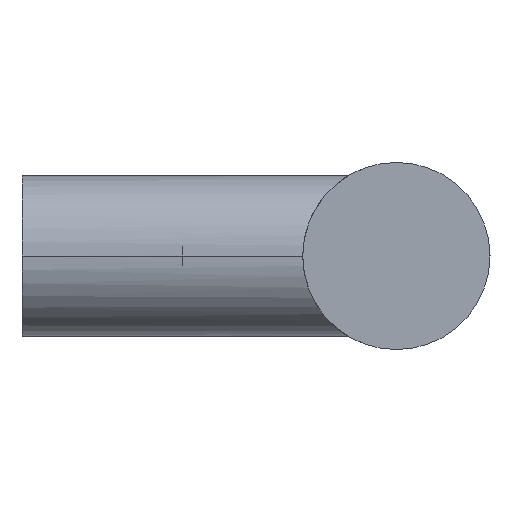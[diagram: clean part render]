
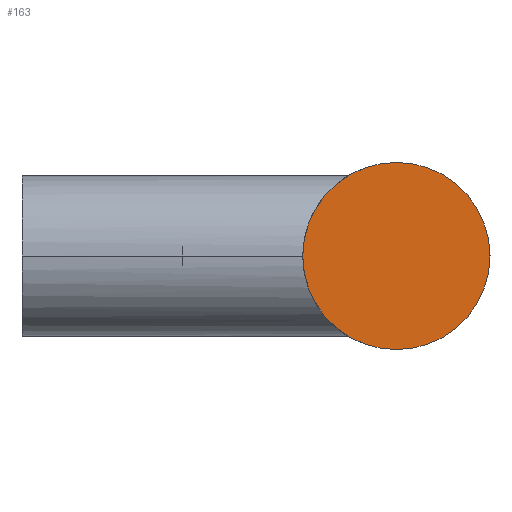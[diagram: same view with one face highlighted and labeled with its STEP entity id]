
A CAD part, left-side view. The second image highlights one B-rep face of the part: STEP entity #163.
In plain terms, the highlighted planar face has unit normal (-1, 0, 0).
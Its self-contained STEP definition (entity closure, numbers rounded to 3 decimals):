
#151 = VERTEX_POINT( '', #368 );
#163 = ADVANCED_FACE( '', ( #385 ), #386, .F. );
#273 = VERTEX_POINT( '', #508 );
#281 = EDGE_CURVE( '', #273, #151, #516, .T. );
#287 = EDGE_CURVE( '', #151, #273, #523, .T. );
#368 = CARTESIAN_POINT( '', ( -30., -28., -7. ) );
#385 = FACE_OUTER_BOUND( '', #674, .T. );
#386 = PLANE( '', #675 );
#508 = CARTESIAN_POINT( '', ( -30., -28., 7. ) );
#516 = CIRCLE( '', #896, 7. );
#523 = CIRCLE( '', #906, 7. );
#674 = EDGE_LOOP( '', ( #1112, #1113 ) );
#675 = AXIS2_PLACEMENT_3D( '', #1114, #1115, #1116 );
#896 = AXIS2_PLACEMENT_3D( '', #1253, #1254, #1255 );
#906 = AXIS2_PLACEMENT_3D( '', #1265, #1266, #1267 );
#1112 = ORIENTED_EDGE( '', *, *, #287, .F. );
#1113 = ORIENTED_EDGE( '', *, *, #281, .F. );
#1114 = CARTESIAN_POINT( '', ( -30., 0., 0. ) );
#1115 = DIRECTION( '', ( 1., 0., 0. ) );
#1116 = DIRECTION( '', ( 0., 0., -1. ) );
#1253 = CARTESIAN_POINT( '', ( -30., -28., 0. ) );
#1254 = DIRECTION( '', ( 1., 0., 0. ) );
#1255 = DIRECTION( '', ( 0., 0., -1. ) );
#1265 = CARTESIAN_POINT( '', ( -30., -28., 0. ) );
#1266 = DIRECTION( '', ( 1., 0., 0. ) );
#1267 = DIRECTION( '', ( 0., 0., -1. ) );
